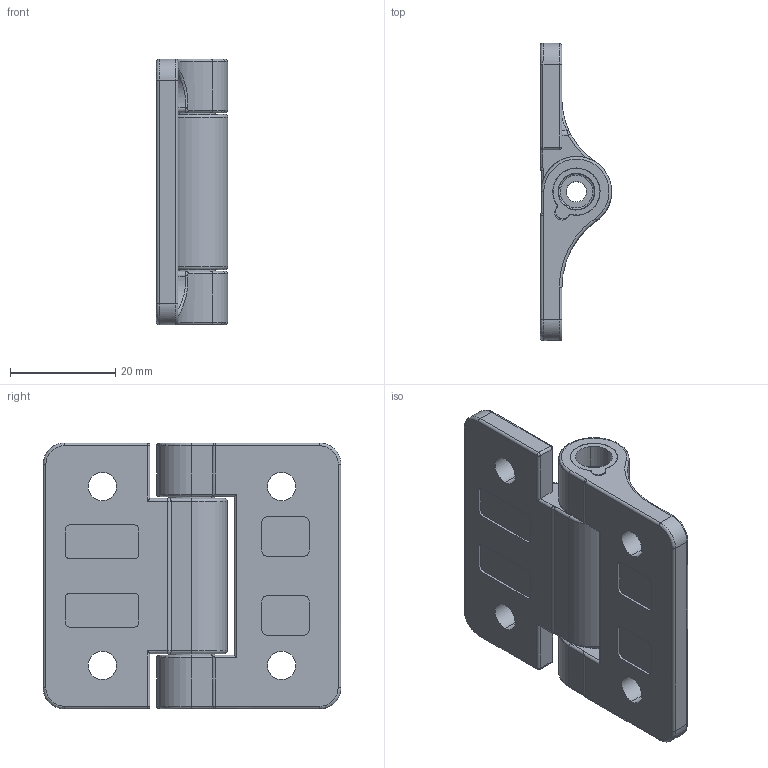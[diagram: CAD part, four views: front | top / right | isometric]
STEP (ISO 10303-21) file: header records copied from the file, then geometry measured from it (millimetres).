
FILE_DESCRIPTION (( 'STEP AP203' ), '1' );
FILE_NAME ('XG11-003-4.STEP', '2025-04-16T02:48:03', ( '微软用户' ), ( '微软中国' ), 'SwSTEP 2.0', 'SolidWorks 2024', '' );
FILE_SCHEMA (( 'CONFIG_CONTROL_DESIGN' ));
Length unit declared in the file: millimetre
Products named in the file (1): XG11-003-4
Bounding box: 13.56 x 56.56 x 50.5 mm (x, y, z)
Volume: 15371.7 mm3; surface area: 10589.8 mm2
Topology: 4 solids, 4 shells, 242 faces, 585 edges, 353 vertices
Faces by surface type: cylinder 115, plane 54, torus 28, bspline 18, cone 17, sphere 10
Entity records: 8865 total; most frequent: CARTESIAN_POINT 3163, DIRECTION 1206, ORIENTED_EDGE 1162, EDGE_CURVE 581, AXIS2_PLACEMENT_3D 482, VERTEX_POINT 353, EDGE_LOOP 266, CIRCLE 257
